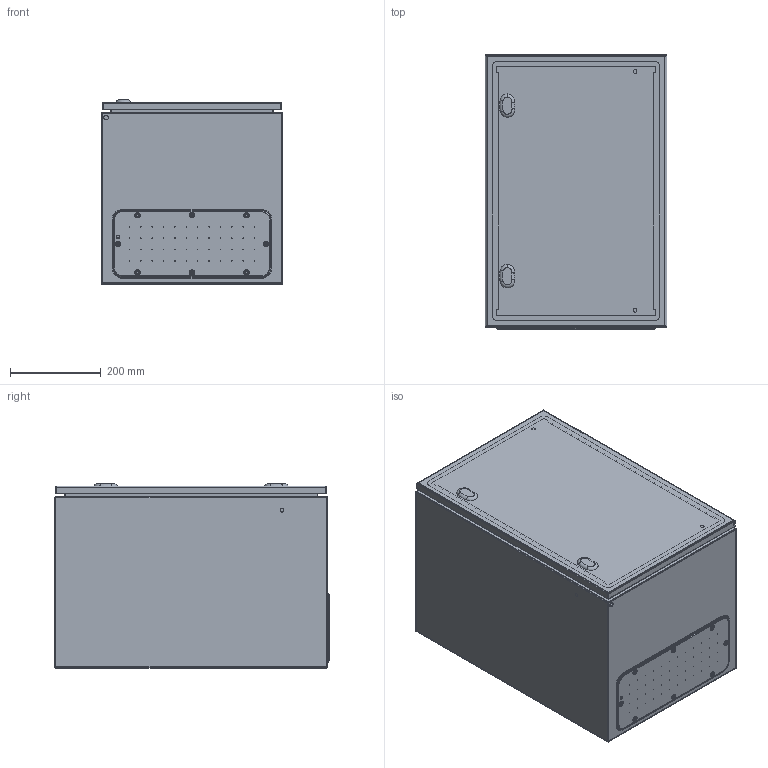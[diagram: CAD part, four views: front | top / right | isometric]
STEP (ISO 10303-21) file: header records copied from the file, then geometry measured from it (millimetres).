
FILE_DESCRIPTION (( 'STEP AP203' ), '1' );
FILE_NAME ('0400x0600x0400 dx.step', '2021-09-07T06:40:50', ( '' ), ( '' ), 'SwSTEP 2.0', 'SolidWorks 2021', '' );
FILE_SCHEMA (( 'CONFIG_CONTROL_DESIGN' ));
Length unit declared in the file: millimetre
Products named in the file (7): AR_ECOR_Piastra_09; 0400x0600x0400 dx; AR_ECOR_montaggio_porta_singola_0400x0600; AR_ECOR_porta_singola_0400x0600; AR_ECOR_involucro_0400x0600x0400; AR_ECOR_flangia IC_04; AR_ECOR_chiusura_std_STD
Assembly tree (7 placements, depth 3):
  0400x0600x0400 dx
    AR_ECOR_involucro_0400x0600x0400
    AR_ECOR_montaggio_porta_singola_0400x0600
      AR_ECOR_porta_singola_0400x0600
      AR_ECOR_chiusura_std_STD  x2
    AR_ECOR_flangia IC_04
    AR_ECOR_Piastra_09
Bounding box: 400 x 604 x 405 mm (x, y, z)
Volume: 2575024.1 mm3; surface area: 3159021.6 mm2
Topology: 6 solids, 6 shells, 769 faces, 1893 edges, 1194 vertices
Faces by surface type: cylinder 391, plane 228, cone 60, torus 46, bspline 28, sphere 16
Entity records: 24203 total; most frequent: CARTESIAN_POINT 4977, DIRECTION 4119, ORIENTED_EDGE 3668, EDGE_CURVE 1834, AXIS2_PLACEMENT_3D 1645, VERTEX_POINT 1168, EDGE_LOOP 988, CIRCLE 909
